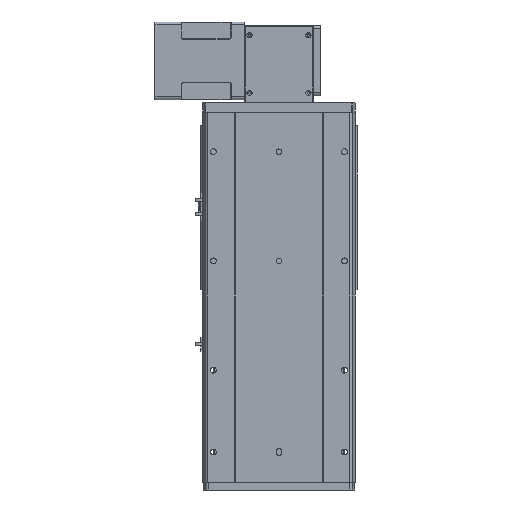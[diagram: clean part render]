
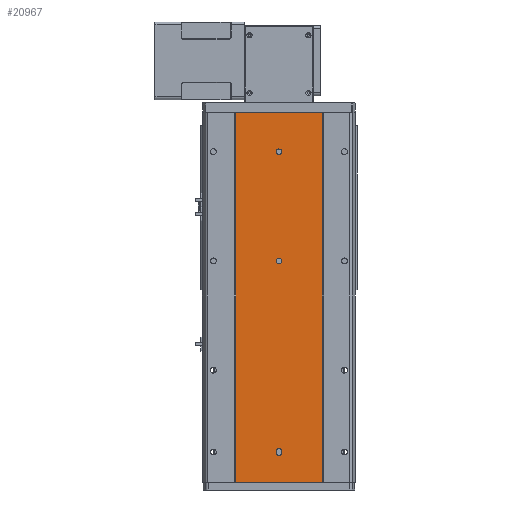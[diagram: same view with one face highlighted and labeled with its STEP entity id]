
A CAD part, front view. The second image highlights one B-rep face of the part: STEP entity #20967.
In plain terms, the highlighted planar face has unit normal (0, -1, 0).
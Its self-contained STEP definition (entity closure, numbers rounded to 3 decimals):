
#167 = CARTESIAN_POINT ( 'NONE',  ( 79., 1.5, -677. ) ) ;
#555 = CARTESIAN_POINT ( 'NONE',  ( 0., 1.5, -271.5 ) ) ;
#833 = DIRECTION ( 'NONE',  ( 1., 0., 0. ) ) ;
#1842 = VERTEX_POINT ( 'NONE', #23742 ) ;
#1899 = FACE_BOUND ( 'NONE', #41127, .T. ) ;
#2196 = VERTEX_POINT ( 'NONE', #35745 ) ;
#3238 = VERTEX_POINT ( 'NONE', #30295 ) ;
#3359 = LINE ( 'NONE', #34902, #38254 ) ;
#3449 = ORIENTED_EDGE ( 'NONE', *, *, #30986, .T. ) ;
#4111 = DIRECTION ( 'NONE',  ( 0., 1., 0. ) ) ;
#4659 = VERTEX_POINT ( 'NONE', #22881 ) ;
#4882 = AXIS2_PLACEMENT_3D ( 'NONE', #555, #10751, #833 ) ;
#5133 = EDGE_CURVE ( 'NONE', #11275, #20742, #21811, .T. ) ;
#5237 = ORIENTED_EDGE ( 'NONE', *, *, #30197, .T. ) ;
#5529 = DIRECTION ( 'NONE',  ( 1., 0., 0. ) ) ;
#5640 = EDGE_CURVE ( 'NONE', #1842, #23520, #21101, .T. ) ;
#6319 = ORIENTED_EDGE ( 'NONE', *, *, #20954, .T. ) ;
#6816 = ORIENTED_EDGE ( 'NONE', *, *, #18047, .F. ) ;
#8358 = EDGE_CURVE ( 'NONE', #4659, #2196, #8401, .T. ) ;
#8401 = CIRCLE ( 'NONE', #28800, 5. ) ;
#8582 = ORIENTED_EDGE ( 'NONE', *, *, #5640, .T. ) ;
#8757 = VECTOR ( 'NONE', #23133, 1000. ) ;
#10409 = LINE ( 'NONE', #32439, #35049 ) ;
#10437 = CARTESIAN_POINT ( 'NONE',  ( 0., 1.5, -623. ) ) ;
#10751 = DIRECTION ( 'NONE',  ( 0., 1., 0. ) ) ;
#10872 = ORIENTED_EDGE ( 'NONE', *, *, #8358, .T. ) ;
#11069 = EDGE_CURVE ( 'NONE', #3238, #35544, #40543, .T. ) ;
#11275 = VERTEX_POINT ( 'NONE', #37851 ) ;
#11334 = CARTESIAN_POINT ( 'NONE',  ( -79., 1.5, -677. ) ) ;
#12069 = CIRCLE ( 'NONE', #4882, 5. ) ;
#12231 = EDGE_CURVE ( 'NONE', #29216, #4659, #15355, .T. ) ;
#12500 = CARTESIAN_POINT ( 'NONE',  ( -79., 1.5, 0. ) ) ;
#12646 = DIRECTION ( 'NONE',  ( 1., 0., 0. ) ) ;
#12768 = CIRCLE ( 'NONE', #36104, 5. ) ;
#12769 = EDGE_LOOP ( 'NONE', ( #19790, #10872, #34651, #6319, #13683 ) ) ;
#12803 = CARTESIAN_POINT ( 'NONE',  ( 0., 1.5, -71.5 ) ) ;
#13683 = ORIENTED_EDGE ( 'NONE', *, *, #36468, .T. ) ;
#14061 = PLANE ( 'NONE',  #34796 ) ;
#14398 = AXIS2_PLACEMENT_3D ( 'NONE', #38673, #19053, #5529 ) ;
#14925 = DIRECTION ( 'NONE',  ( 0., 0., 1. ) ) ;
#15355 = LINE ( 'NONE', #20761, #20965 ) ;
#16825 = DIRECTION ( 'NONE',  ( 0., 1., 0. ) ) ;
#17117 = AXIS2_PLACEMENT_3D ( 'NONE', #10437, #4111, #23792 ) ;
#18047 = EDGE_CURVE ( 'NONE', #27178, #35544, #20809, .T. ) ;
#18405 = VERTEX_POINT ( 'NONE', #37519 ) ;
#18511 = CARTESIAN_POINT ( 'NONE',  ( 0., 1.5, -66.5 ) ) ;
#19053 = DIRECTION ( 'NONE',  ( 0., 1., 0. ) ) ;
#19072 = CARTESIAN_POINT ( 'NONE',  ( 0., 1.5, -623. ) ) ;
#19179 = EDGE_LOOP ( 'NONE', ( #6816, #40227, #5237, #37837 ) ) ;
#19396 = CIRCLE ( 'NONE', #17117, 5. ) ;
#19665 = DIRECTION ( 'NONE',  ( 1., 0., 0. ) ) ;
#19790 = ORIENTED_EDGE ( 'NONE', *, *, #12231, .T. ) ;
#20742 = VERTEX_POINT ( 'NONE', #18511 ) ;
#20761 = CARTESIAN_POINT ( 'NONE',  ( -5., 1.5, -677. ) ) ;
#20770 = CARTESIAN_POINT ( 'NONE',  ( -79., 1.5, -677. ) ) ;
#20809 = LINE ( 'NONE', #12500, #30053 ) ;
#20954 = EDGE_CURVE ( 'NONE', #18405, #39350, #19396, .T. ) ;
#20965 = VECTOR ( 'NONE', #24229, 1000. ) ;
#20967 = ADVANCED_FACE ( 'NONE', ( #1899, #21939, #41877, #35803 ), #14061, .T. ) ;
#21101 = CIRCLE ( 'NONE', #14398, 5. ) ;
#21811 = CIRCLE ( 'NONE', #42318, 5. ) ;
#21939 = FACE_OUTER_BOUND ( 'NONE', #19179, .T. ) ;
#22102 = EDGE_CURVE ( 'NONE', #23520, #1842, #12069, .T. ) ;
#22881 = CARTESIAN_POINT ( 'NONE',  ( -5., 1.5, -620. ) ) ;
#23133 = DIRECTION ( 'NONE',  ( 0., 0., 1. ) ) ;
#23520 = VERTEX_POINT ( 'NONE', #35420 ) ;
#23595 = DIRECTION ( 'NONE',  ( 1., 0., 0. ) ) ;
#23742 = CARTESIAN_POINT ( 'NONE',  ( 0., 1.5, -276.5 ) ) ;
#23792 = DIRECTION ( 'NONE',  ( 1., 0., 0. ) ) ;
#24000 = CARTESIAN_POINT ( 'NONE',  ( -79., 1.5, 0. ) ) ;
#24087 = DIRECTION ( 'NONE',  ( 1., 0., 0. ) ) ;
#24229 = DIRECTION ( 'NONE',  ( 0., 0., 1. ) ) ;
#24500 = EDGE_CURVE ( 'NONE', #31676, #27178, #33274, .T. ) ;
#25185 = AXIS2_PLACEMENT_3D ( 'NONE', #29821, #16825, #19665 ) ;
#26290 = CARTESIAN_POINT ( 'NONE',  ( 79., 1.5, 0. ) ) ;
#26553 = EDGE_CURVE ( 'NONE', #2196, #18405, #3359, .T. ) ;
#26800 = DIRECTION ( 'NONE',  ( 0., -1., 0. ) ) ;
#27178 = VERTEX_POINT ( 'NONE', #24000 ) ;
#28800 = AXIS2_PLACEMENT_3D ( 'NONE', #39904, #40034, #23595 ) ;
#28867 = EDGE_LOOP ( 'NONE', ( #8582, #33754 ) ) ;
#29216 = VERTEX_POINT ( 'NONE', #30340 ) ;
#29821 = CARTESIAN_POINT ( 'NONE',  ( 0., 1.5, -71.5 ) ) ;
#30053 = VECTOR ( 'NONE', #12646, 1000. ) ;
#30197 = EDGE_CURVE ( 'NONE', #31676, #3238, #10409, .T. ) ;
#30295 = CARTESIAN_POINT ( 'NONE',  ( 79., 1.5, -677. ) ) ;
#30340 = CARTESIAN_POINT ( 'NONE',  ( -5., 1.5, -623. ) ) ;
#30986 = EDGE_CURVE ( 'NONE', #20742, #11275, #41048, .T. ) ;
#31354 = ORIENTED_EDGE ( 'NONE', *, *, #5133, .T. ) ;
#31676 = VERTEX_POINT ( 'NONE', #35952 ) ;
#32439 = CARTESIAN_POINT ( 'NONE',  ( -79., 1.5, -677. ) ) ;
#33274 = LINE ( 'NONE', #11334, #39926 ) ;
#33754 = ORIENTED_EDGE ( 'NONE', *, *, #22102, .T. ) ;
#34651 = ORIENTED_EDGE ( 'NONE', *, *, #26553, .T. ) ;
#34796 = AXIS2_PLACEMENT_3D ( 'NONE', #20770, #26800, #24087 ) ;
#34902 = CARTESIAN_POINT ( 'NONE',  ( 5., 1.5, -677. ) ) ;
#35049 = VECTOR ( 'NONE', #39440, 1000. ) ;
#35420 = CARTESIAN_POINT ( 'NONE',  ( 0., 1.5, -266.5 ) ) ;
#35544 = VERTEX_POINT ( 'NONE', #26290 ) ;
#35745 = CARTESIAN_POINT ( 'NONE',  ( 5., 1.5, -620. ) ) ;
#35803 = FACE_BOUND ( 'NONE', #12769, .T. ) ;
#35952 = CARTESIAN_POINT ( 'NONE',  ( -79., 1.5, -677. ) ) ;
#36104 = AXIS2_PLACEMENT_3D ( 'NONE', #19072, #42353, #41803 ) ;
#36468 = EDGE_CURVE ( 'NONE', #39350, #29216, #12768, .T. ) ;
#37154 = CARTESIAN_POINT ( 'NONE',  ( 0., 1.5, -628. ) ) ;
#37519 = CARTESIAN_POINT ( 'NONE',  ( 5., 1.5, -623. ) ) ;
#37837 = ORIENTED_EDGE ( 'NONE', *, *, #11069, .T. ) ;
#37851 = CARTESIAN_POINT ( 'NONE',  ( 0., 1.5, -76.5 ) ) ;
#38254 = VECTOR ( 'NONE', #38882, 1000. ) ;
#38673 = CARTESIAN_POINT ( 'NONE',  ( 0., 1.5, -271.5 ) ) ;
#38869 = DIRECTION ( 'NONE',  ( 0., 1., 0. ) ) ;
#38882 = DIRECTION ( 'NONE',  ( 0., 0., -1. ) ) ;
#39350 = VERTEX_POINT ( 'NONE', #37154 ) ;
#39440 = DIRECTION ( 'NONE',  ( 1., 0., 0. ) ) ;
#39904 = CARTESIAN_POINT ( 'NONE',  ( 0., 1.5, -620. ) ) ;
#39926 = VECTOR ( 'NONE', #14925, 1000. ) ;
#40034 = DIRECTION ( 'NONE',  ( 0., 1., 0. ) ) ;
#40227 = ORIENTED_EDGE ( 'NONE', *, *, #24500, .F. ) ;
#40543 = LINE ( 'NONE', #167, #8757 ) ;
#41048 = CIRCLE ( 'NONE', #25185, 5. ) ;
#41127 = EDGE_LOOP ( 'NONE', ( #31354, #3449 ) ) ;
#41803 = DIRECTION ( 'NONE',  ( 1., 0., 0. ) ) ;
#41877 = FACE_BOUND ( 'NONE', #28867, .T. ) ;
#42119 = DIRECTION ( 'NONE',  ( 1., 0., 0. ) ) ;
#42318 = AXIS2_PLACEMENT_3D ( 'NONE', #12803, #38869, #42119 ) ;
#42353 = DIRECTION ( 'NONE',  ( 0., 1., 0. ) ) ;
